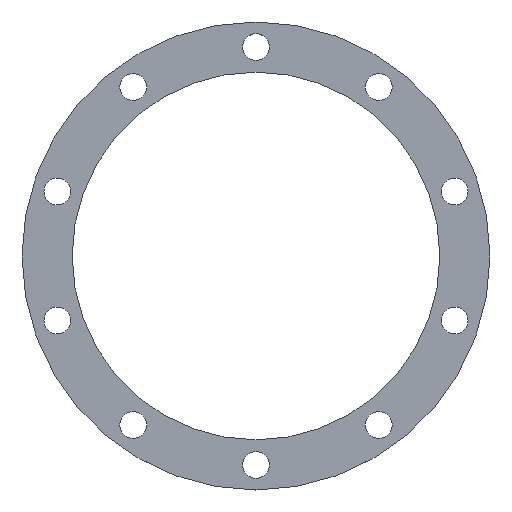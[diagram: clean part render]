
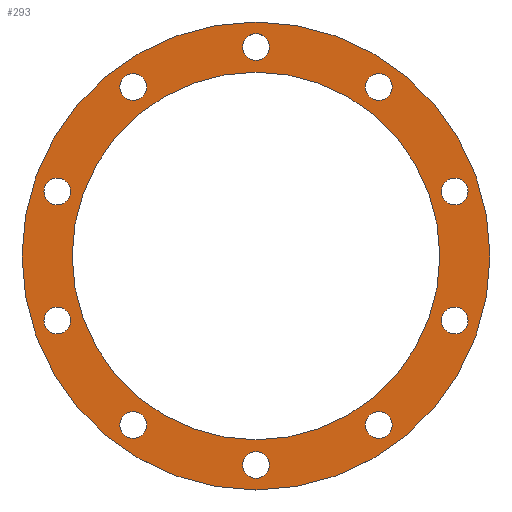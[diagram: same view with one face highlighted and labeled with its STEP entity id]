
A CAD part, top view. The second image highlights one B-rep face of the part: STEP entity #293.
In plain terms, the highlighted planar face has unit normal (0, 0, 1).
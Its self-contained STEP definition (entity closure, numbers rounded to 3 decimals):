
#15=FACE_BOUND('',#66,.T.);
#16=FACE_BOUND('',#67,.T.);
#17=FACE_BOUND('',#68,.T.);
#18=FACE_BOUND('',#69,.T.);
#19=FACE_BOUND('',#70,.T.);
#20=FACE_BOUND('',#71,.T.);
#21=FACE_BOUND('',#72,.T.);
#22=FACE_BOUND('',#73,.T.);
#23=FACE_BOUND('',#74,.T.);
#24=FACE_BOUND('',#75,.T.);
#25=FACE_BOUND('',#76,.T.);
#37=PLANE('',#351);
#51=FACE_OUTER_BOUND('',#65,.T.);
#65=EDGE_LOOP('',(#245));
#66=EDGE_LOOP('',(#246));
#67=EDGE_LOOP('',(#247));
#68=EDGE_LOOP('',(#248));
#69=EDGE_LOOP('',(#249));
#70=EDGE_LOOP('',(#250));
#71=EDGE_LOOP('',(#251));
#72=EDGE_LOOP('',(#252));
#73=EDGE_LOOP('',(#253));
#74=EDGE_LOOP('',(#254));
#75=EDGE_LOOP('',(#255));
#76=EDGE_LOOP('',(#256));
#113=CIRCLE('',#316,4.);
#115=CIRCLE('',#319,4.);
#117=CIRCLE('',#322,4.);
#119=CIRCLE('',#325,4.);
#121=CIRCLE('',#328,4.);
#123=CIRCLE('',#331,55.);
#125=CIRCLE('',#334,4.);
#127=CIRCLE('',#337,4.);
#129=CIRCLE('',#340,4.);
#131=CIRCLE('',#343,4.);
#133=CIRCLE('',#346,4.);
#135=CIRCLE('',#349,70.);
#137=VERTEX_POINT('',#445);
#139=VERTEX_POINT('',#451);
#141=VERTEX_POINT('',#457);
#143=VERTEX_POINT('',#463);
#145=VERTEX_POINT('',#469);
#147=VERTEX_POINT('',#475);
#149=VERTEX_POINT('',#481);
#151=VERTEX_POINT('',#487);
#153=VERTEX_POINT('',#493);
#155=VERTEX_POINT('',#499);
#157=VERTEX_POINT('',#505);
#159=VERTEX_POINT('',#511);
#161=EDGE_CURVE('',#137,#137,#113,.T.);
#164=EDGE_CURVE('',#139,#139,#115,.T.);
#167=EDGE_CURVE('',#141,#141,#117,.T.);
#170=EDGE_CURVE('',#143,#143,#119,.T.);
#173=EDGE_CURVE('',#145,#145,#121,.T.);
#176=EDGE_CURVE('',#147,#147,#123,.T.);
#179=EDGE_CURVE('',#149,#149,#125,.T.);
#182=EDGE_CURVE('',#151,#151,#127,.T.);
#185=EDGE_CURVE('',#153,#153,#129,.T.);
#188=EDGE_CURVE('',#155,#155,#131,.T.);
#191=EDGE_CURVE('',#157,#157,#133,.T.);
#194=EDGE_CURVE('',#159,#159,#135,.T.);
#245=ORIENTED_EDGE('',*,*,#194,.T.);
#246=ORIENTED_EDGE('',*,*,#191,.T.);
#247=ORIENTED_EDGE('',*,*,#188,.T.);
#248=ORIENTED_EDGE('',*,*,#185,.T.);
#249=ORIENTED_EDGE('',*,*,#182,.T.);
#250=ORIENTED_EDGE('',*,*,#179,.T.);
#251=ORIENTED_EDGE('',*,*,#176,.T.);
#252=ORIENTED_EDGE('',*,*,#173,.T.);
#253=ORIENTED_EDGE('',*,*,#170,.T.);
#254=ORIENTED_EDGE('',*,*,#167,.T.);
#255=ORIENTED_EDGE('',*,*,#164,.T.);
#256=ORIENTED_EDGE('',*,*,#161,.T.);
#293=ADVANCED_FACE('',(#51,#15,#16,#17,#18,#19,#20,#21,#22,#23,#24,#25),
#37,.T.);
#316=AXIS2_PLACEMENT_3D('',#446,#357,#358);
#319=AXIS2_PLACEMENT_3D('',#452,#364,#365);
#322=AXIS2_PLACEMENT_3D('',#458,#371,#372);
#325=AXIS2_PLACEMENT_3D('',#464,#378,#379);
#328=AXIS2_PLACEMENT_3D('',#470,#385,#386);
#331=AXIS2_PLACEMENT_3D('',#476,#392,#393);
#334=AXIS2_PLACEMENT_3D('',#482,#399,#400);
#337=AXIS2_PLACEMENT_3D('',#488,#406,#407);
#340=AXIS2_PLACEMENT_3D('',#494,#413,#414);
#343=AXIS2_PLACEMENT_3D('',#500,#420,#421);
#346=AXIS2_PLACEMENT_3D('',#506,#427,#428);
#349=AXIS2_PLACEMENT_3D('',#512,#434,#435);
#351=AXIS2_PLACEMENT_3D('',#516,#439,#440);
#357=DIRECTION('center_axis',(0.,0.,-1.));
#358=DIRECTION('ref_axis',(-1.,0.,0.));
#364=DIRECTION('center_axis',(0.,0.,-1.));
#365=DIRECTION('ref_axis',(-1.,0.,0.));
#371=DIRECTION('center_axis',(0.,0.,-1.));
#372=DIRECTION('ref_axis',(-1.,0.,0.));
#378=DIRECTION('center_axis',(0.,0.,-1.));
#379=DIRECTION('ref_axis',(-1.,0.,0.));
#385=DIRECTION('center_axis',(0.,0.,-1.));
#386=DIRECTION('ref_axis',(-1.,0.,0.));
#392=DIRECTION('center_axis',(0.,0.,-1.));
#393=DIRECTION('ref_axis',(-1.,0.,0.));
#399=DIRECTION('center_axis',(0.,0.,-1.));
#400=DIRECTION('ref_axis',(-1.,0.,0.));
#406=DIRECTION('center_axis',(0.,0.,-1.));
#407=DIRECTION('ref_axis',(-1.,0.,0.));
#413=DIRECTION('center_axis',(0.,0.,-1.));
#414=DIRECTION('ref_axis',(-1.,0.,0.));
#420=DIRECTION('center_axis',(0.,0.,-1.));
#421=DIRECTION('ref_axis',(-1.,0.,0.));
#427=DIRECTION('center_axis',(0.,0.,-1.));
#428=DIRECTION('ref_axis',(-1.,0.,0.));
#434=DIRECTION('center_axis',(0.,0.,1.));
#435=DIRECTION('ref_axis',(1.,0.,0.));
#439=DIRECTION('center_axis',(0.,0.,1.));
#440=DIRECTION('ref_axis',(1.,0.,0.));
#445=CARTESIAN_POINT('',(0.737,43.064,1.));
#446=CARTESIAN_POINT('Origin',(-3.263,43.064,1.));
#451=CARTESIAN_POINT('',(-36.,55.,1.));
#452=CARTESIAN_POINT('Origin',(-40.,55.,1.));
#457=CARTESIAN_POINT('',(23.441,11.814,1.));
#458=CARTESIAN_POINT('Origin',(19.441,11.814,1.));
#463=CARTESIAN_POINT('',(-95.441,11.814,1.));
#464=CARTESIAN_POINT('Origin',(-99.441,11.814,1.));
#469=CARTESIAN_POINT('',(-72.737,43.064,1.));
#470=CARTESIAN_POINT('Origin',(-76.737,43.064,1.));
#475=CARTESIAN_POINT('',(15.,-7.5,1.));
#476=CARTESIAN_POINT('Origin',(-40.,-7.5,1.));
#481=CARTESIAN_POINT('',(-36.,-70.,1.));
#482=CARTESIAN_POINT('Origin',(-40.,-70.,1.));
#487=CARTESIAN_POINT('',(-72.737,-58.064,1.));
#488=CARTESIAN_POINT('Origin',(-76.737,-58.064,1.));
#493=CARTESIAN_POINT('',(-95.441,-26.814,1.));
#494=CARTESIAN_POINT('Origin',(-99.441,-26.814,1.));
#499=CARTESIAN_POINT('',(23.441,-26.814,1.));
#500=CARTESIAN_POINT('Origin',(19.441,-26.814,1.));
#505=CARTESIAN_POINT('',(0.737,-58.064,1.));
#506=CARTESIAN_POINT('Origin',(-3.263,-58.064,1.));
#511=CARTESIAN_POINT('',(-110.,-7.5,1.));
#512=CARTESIAN_POINT('Origin',(-40.,-7.5,1.));
#516=CARTESIAN_POINT('Origin',(-40.,-7.5,1.));
